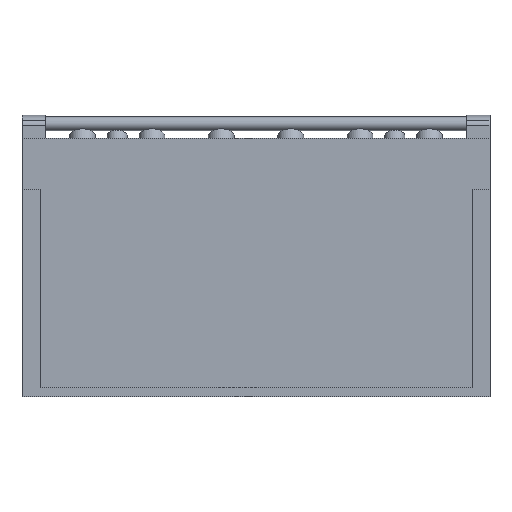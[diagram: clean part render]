
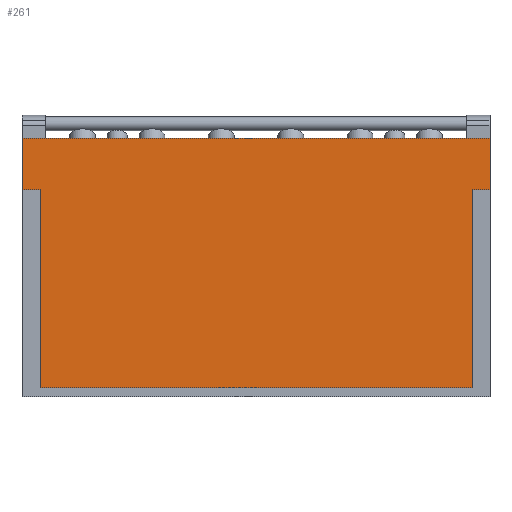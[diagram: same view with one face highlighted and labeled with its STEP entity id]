
A CAD part, front view. The second image highlights one B-rep face of the part: STEP entity #261.
In plain terms, the highlighted planar face has unit normal (0, -1, 0).
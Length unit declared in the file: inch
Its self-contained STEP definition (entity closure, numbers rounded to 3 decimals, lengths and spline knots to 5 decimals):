
#11 = EDGE_CURVE ( 'NONE', #1005, #1154, #766, .T. ) ;
#18 = DIRECTION ( 'NONE',  ( 0., 0., -1. ) ) ;
#81 = VERTEX_POINT ( 'NONE', #1532 ) ;
#90 = FACE_OUTER_BOUND ( 'NONE', #853, .T. ) ;
#117 = VECTOR ( 'NONE', #1718, 39.37008 ) ;
#120 = AXIS2_PLACEMENT_3D ( 'NONE', #1594, #979, #1343 ) ;
#149 = VECTOR ( 'NONE', #1669, 39.37008 ) ;
#190 = VECTOR ( 'NONE', #1004, 39.37008 ) ;
#210 = LINE ( 'NONE', #1727, #1586 ) ;
#242 = ORIENTED_EDGE ( 'NONE', *, *, #436, .T. ) ;
#261 = ADVANCED_FACE ( 'NONE', ( #90 ), #677, .F. ) ;
#278 = CARTESIAN_POINT ( 'NONE',  ( 21., -9.48387, -10.6745 ) ) ;
#351 = CARTESIAN_POINT ( 'NONE',  ( -22.75, -9.48387, 8.58492 ) ) ;
#367 = ORIENTED_EDGE ( 'NONE', *, *, #406, .F. ) ;
#378 = EDGE_CURVE ( 'NONE', #81, #1723, #1249, .T. ) ;
#406 = EDGE_CURVE ( 'NONE', #816, #616, #210, .T. ) ;
#436 = EDGE_CURVE ( 'NONE', #1330, #1154, #1020, .T. ) ;
#446 = CARTESIAN_POINT ( 'NONE',  ( -21., -9.48387, -10.6745 ) ) ;
#459 = EDGE_CURVE ( 'NONE', #1005, #616, #1624, .T. ) ;
#461 = CARTESIAN_POINT ( 'NONE',  ( 22.75, -9.48387, 13.58492 ) ) ;
#464 = CARTESIAN_POINT ( 'NONE',  ( -21., -9.48387, 8.58492 ) ) ;
#616 = VERTEX_POINT ( 'NONE', #1002 ) ;
#662 = LINE ( 'NONE', #1204, #149 ) ;
#677 = PLANE ( 'NONE',  #120 ) ;
#718 = VERTEX_POINT ( 'NONE', #1606 ) ;
#722 = CARTESIAN_POINT ( 'NONE',  ( 22.75, -9.48387, 8.58492 ) ) ;
#725 = DIRECTION ( 'NONE',  ( -1., 0., 0. ) ) ;
#766 = LINE ( 'NONE', #781, #1637 ) ;
#781 = CARTESIAN_POINT ( 'NONE',  ( -21., -9.48387, 8.58492 ) ) ;
#812 = LINE ( 'NONE', #1324, #1484 ) ;
#816 = VERTEX_POINT ( 'NONE', #278 ) ;
#822 = ORIENTED_EDGE ( 'NONE', *, *, #1209, .F. ) ;
#853 = EDGE_LOOP ( 'NONE', ( #1640, #1737, #367, #822, #1427, #906, #976, #242 ) ) ;
#906 = ORIENTED_EDGE ( 'NONE', *, *, #378, .F. ) ;
#976 = ORIENTED_EDGE ( 'NONE', *, *, #1618, .T. ) ;
#979 = DIRECTION ( 'NONE',  ( 0., 1., 0. ) ) ;
#1002 = CARTESIAN_POINT ( 'NONE',  ( -21., -9.48387, -10.6745 ) ) ;
#1004 = DIRECTION ( 'NONE',  ( 0., 0., -1. ) ) ;
#1005 = VERTEX_POINT ( 'NONE', #464 ) ;
#1020 = LINE ( 'NONE', #1487, #117 ) ;
#1043 = DIRECTION ( 'NONE',  ( 0., 0., -1. ) ) ;
#1058 = DIRECTION ( 'NONE',  ( -1., 0., 0. ) ) ;
#1114 = CARTESIAN_POINT ( 'NONE',  ( -22.75, -9.48387, 13.58492 ) ) ;
#1142 = EDGE_CURVE ( 'NONE', #718, #1723, #662, .T. ) ;
#1154 = VERTEX_POINT ( 'NONE', #351 ) ;
#1204 = CARTESIAN_POINT ( 'NONE',  ( 21., -9.48387, 8.58492 ) ) ;
#1205 = CARTESIAN_POINT ( 'NONE',  ( 22.75, -9.48387, 13.58492 ) ) ;
#1209 = EDGE_CURVE ( 'NONE', #718, #816, #812, .T. ) ;
#1245 = VECTOR ( 'NONE', #1058, 39.37008 ) ;
#1249 = LINE ( 'NONE', #1205, #190 ) ;
#1324 = CARTESIAN_POINT ( 'NONE',  ( 21., -9.48387, -10.6745 ) ) ;
#1330 = VERTEX_POINT ( 'NONE', #1114 ) ;
#1343 = DIRECTION ( 'NONE',  ( 0., 0., 1. ) ) ;
#1427 = ORIENTED_EDGE ( 'NONE', *, *, #1142, .T. ) ;
#1466 = VECTOR ( 'NONE', #1043, 39.37008 ) ;
#1484 = VECTOR ( 'NONE', #18, 39.37008 ) ;
#1487 = CARTESIAN_POINT ( 'NONE',  ( -22.75, -9.48387, 13.58492 ) ) ;
#1532 = CARTESIAN_POINT ( 'NONE',  ( 22.75, -9.48387, 13.58492 ) ) ;
#1586 = VECTOR ( 'NONE', #1719, 39.37008 ) ;
#1594 = CARTESIAN_POINT ( 'NONE',  ( 22.75, -9.48387, 13.58492 ) ) ;
#1606 = CARTESIAN_POINT ( 'NONE',  ( 21., -9.48387, 8.58492 ) ) ;
#1618 = EDGE_CURVE ( 'NONE', #81, #1330, #1636, .T. ) ;
#1624 = LINE ( 'NONE', #446, #1466 ) ;
#1636 = LINE ( 'NONE', #461, #1245 ) ;
#1637 = VECTOR ( 'NONE', #725, 39.37008 ) ;
#1640 = ORIENTED_EDGE ( 'NONE', *, *, #11, .F. ) ;
#1669 = DIRECTION ( 'NONE',  ( 1., 0., 0. ) ) ;
#1718 = DIRECTION ( 'NONE',  ( 0., 0., -1. ) ) ;
#1719 = DIRECTION ( 'NONE',  ( -1., 0., 0. ) ) ;
#1723 = VERTEX_POINT ( 'NONE', #722 ) ;
#1727 = CARTESIAN_POINT ( 'NONE',  ( 22.75, -9.48387, -10.6745 ) ) ;
#1737 = ORIENTED_EDGE ( 'NONE', *, *, #459, .T. ) ;
